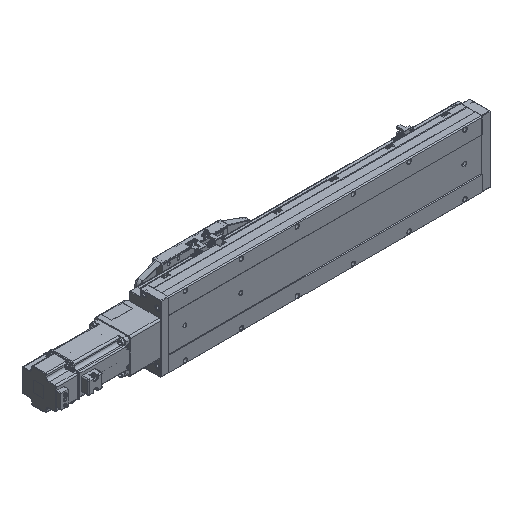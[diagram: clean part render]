
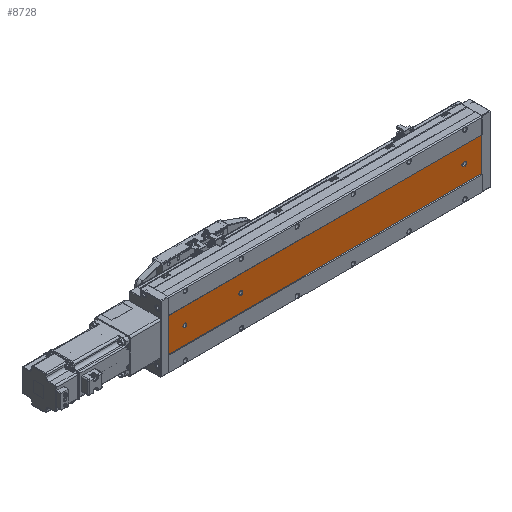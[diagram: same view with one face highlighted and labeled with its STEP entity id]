
A CAD part, isometric view. The second image highlights one B-rep face of the part: STEP entity #8728.
In plain terms, the highlighted planar face has unit normal (0, -1, 0).
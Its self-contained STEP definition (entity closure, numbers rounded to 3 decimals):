
#1011 = VERTEX_POINT ( 'NONE', #2492 ) ;
#2492 = CARTESIAN_POINT ( 'NONE',  ( -69.892, -52.848, 561. ) ) ;
#2560 = AXIS2_PLACEMENT_3D ( 'NONE', #43290, #78239, #70842 ) ;
#4271 = CARTESIAN_POINT ( 'NONE',  ( -39.892, -52.848, 527.5 ) ) ;
#4529 = AXIS2_PLACEMENT_3D ( 'NONE', #56610, #35869, #83811 ) ;
#4762 = VECTOR ( 'NONE', #5829, 1000. ) ;
#5124 = VECTOR ( 'NONE', #45199, 1000. ) ;
#5461 = VERTEX_POINT ( 'NONE', #9630 ) ;
#5829 = DIRECTION ( 'NONE',  ( 0., 0., -1. ) ) ;
#5981 = FACE_OUTER_BOUND ( 'NONE', #41131, .T. ) ;
#6803 = AXIS2_PLACEMENT_3D ( 'NONE', #17280, #71496, #57310 ) ;
#7629 = EDGE_CURVE ( 'NONE', #81849, #76922, #64505, .T. ) ;
#8299 = EDGE_CURVE ( 'NONE', #76922, #81849, #45245, .T. ) ;
#8358 = ORIENTED_EDGE ( 'NONE', *, *, #59164, .T. ) ;
#8728 = ADVANCED_FACE ( 'NONE', ( #23986, #66443, #72777, #5981 ), #15635, .F. ) ;
#8847 = EDGE_LOOP ( 'NONE', ( #41640, #47724 ) ) ;
#9546 = DIRECTION ( 'NONE',  ( 1., 0., 0. ) ) ;
#9630 = CARTESIAN_POINT ( 'NONE',  ( -43.392, -52.848, 30. ) ) ;
#12167 = CARTESIAN_POINT ( 'NONE',  ( -39.892, -52.848, 434.5 ) ) ;
#15635 = PLANE ( 'NONE',  #86229 ) ;
#17280 = CARTESIAN_POINT ( 'NONE',  ( -39.892, -52.848, 30. ) ) ;
#18362 = VERTEX_POINT ( 'NONE', #64252 ) ;
#18506 = EDGE_CURVE ( 'NONE', #57329, #64370, #36574, .T. ) ;
#18789 = LINE ( 'NONE', #30818, #50599 ) ;
#19573 = CARTESIAN_POINT ( 'NONE',  ( -39.892, -52.848, 431. ) ) ;
#19990 = DIRECTION ( 'NONE',  ( 0., 1., 0. ) ) ;
#20338 = CARTESIAN_POINT ( 'NONE',  ( -39.892, -52.848, 531. ) ) ;
#21269 = VERTEX_POINT ( 'NONE', #44245 ) ;
#21606 = VERTEX_POINT ( 'NONE', #83214 ) ;
#22450 = CARTESIAN_POINT ( 'NONE',  ( -9.892, -52.848, 0. ) ) ;
#22739 = CARTESIAN_POINT ( 'NONE',  ( -39.892, -52.848, 26.5 ) ) ;
#23043 = CIRCLE ( 'NONE', #2560, 3.5 ) ;
#23986 = FACE_BOUND ( 'NONE', #52672, .T. ) ;
#25107 = ORIENTED_EDGE ( 'NONE', *, *, #41865, .T. ) ;
#27554 = CARTESIAN_POINT ( 'NONE',  ( -39.892, -52.848, 534.5 ) ) ;
#29267 = EDGE_CURVE ( 'NONE', #21606, #57329, #84239, .T. ) ;
#30427 = VERTEX_POINT ( 'NONE', #22450 ) ;
#30818 = CARTESIAN_POINT ( 'NONE',  ( -69.892, -52.848, 561. ) ) ;
#31296 = CARTESIAN_POINT ( 'NONE',  ( -9.892, -52.848, 561. ) ) ;
#31817 = AXIS2_PLACEMENT_3D ( 'NONE', #48103, #19990, #68547 ) ;
#33223 = ORIENTED_EDGE ( 'NONE', *, *, #44875, .F. ) ;
#34057 = CARTESIAN_POINT ( 'NONE',  ( -36.392, -52.848, 32. ) ) ;
#34130 = LINE ( 'NONE', #31296, #51119 ) ;
#35869 = DIRECTION ( 'NONE',  ( 0., 1., 0. ) ) ;
#36071 = CIRCLE ( 'NONE', #6803, 3.5 ) ;
#36435 = CIRCLE ( 'NONE', #53230, 3.5 ) ;
#36514 = CARTESIAN_POINT ( 'NONE',  ( -69.892, -52.848, 0. ) ) ;
#36574 = LINE ( 'NONE', #41359, #4762 ) ;
#36705 = DIRECTION ( 'NONE',  ( 0., 1., 0. ) ) ;
#37002 = CARTESIAN_POINT ( 'NONE',  ( -39.892, -52.848, 30. ) ) ;
#37414 = CARTESIAN_POINT ( 'NONE',  ( -43.392, -52.848, 561. ) ) ;
#37999 = EDGE_CURVE ( 'NONE', #1011, #18362, #43266, .T. ) ;
#41067 = EDGE_CURVE ( 'NONE', #86411, #21269, #23043, .T. ) ;
#41077 = DIRECTION ( 'NONE',  ( 0., 0., 1. ) ) ;
#41103 = EDGE_CURVE ( 'NONE', #1011, #48943, #18789, .T. ) ;
#41131 = EDGE_LOOP ( 'NONE', ( #69489, #33223, #78819, #66150 ) ) ;
#41359 = CARTESIAN_POINT ( 'NONE',  ( -36.392, -52.848, 561. ) ) ;
#41640 = ORIENTED_EDGE ( 'NONE', *, *, #81943, .T. ) ;
#41865 = EDGE_CURVE ( 'NONE', #64370, #44689, #87511, .T. ) ;
#42595 = AXIS2_PLACEMENT_3D ( 'NONE', #37002, #36705, #70750 ) ;
#43266 = LINE ( 'NONE', #64528, #5124 ) ;
#43290 = CARTESIAN_POINT ( 'NONE',  ( -39.892, -52.848, 431. ) ) ;
#44245 = CARTESIAN_POINT ( 'NONE',  ( -39.892, -52.848, 427.5 ) ) ;
#44689 = VERTEX_POINT ( 'NONE', #22739 ) ;
#44875 = EDGE_CURVE ( 'NONE', #48943, #30427, #34130, .T. ) ;
#45199 = DIRECTION ( 'NONE',  ( 0., 0., -1. ) ) ;
#45245 = CIRCLE ( 'NONE', #4529, 3.5 ) ;
#47724 = ORIENTED_EDGE ( 'NONE', *, *, #41067, .T. ) ;
#48103 = CARTESIAN_POINT ( 'NONE',  ( -39.892, -52.848, 32. ) ) ;
#48943 = VERTEX_POINT ( 'NONE', #69354 ) ;
#49710 = CARTESIAN_POINT ( 'NONE',  ( -69.892, -52.848, 561. ) ) ;
#49859 = DIRECTION ( 'NONE',  ( 0., 0., 1. ) ) ;
#50127 = CARTESIAN_POINT ( 'NONE',  ( -36.392, -52.848, 30. ) ) ;
#50599 = VECTOR ( 'NONE', #71119, 1000. ) ;
#50996 = ORIENTED_EDGE ( 'NONE', *, *, #18506, .T. ) ;
#51119 = VECTOR ( 'NONE', #59477, 1000. ) ;
#52672 = EDGE_LOOP ( 'NONE', ( #52904, #58149, #50996, #25107, #8358 ) ) ;
#52877 = ORIENTED_EDGE ( 'NONE', *, *, #8299, .T. ) ;
#52904 = ORIENTED_EDGE ( 'NONE', *, *, #60800, .T. ) ;
#53230 = AXIS2_PLACEMENT_3D ( 'NONE', #19573, #80605, #67007 ) ;
#56610 = CARTESIAN_POINT ( 'NONE',  ( -39.892, -52.848, 531. ) ) ;
#57310 = DIRECTION ( 'NONE',  ( 0., 0., 1. ) ) ;
#57329 = VERTEX_POINT ( 'NONE', #34057 ) ;
#58149 = ORIENTED_EDGE ( 'NONE', *, *, #29267, .T. ) ;
#58393 = AXIS2_PLACEMENT_3D ( 'NONE', #20338, #73711, #41077 ) ;
#59164 = EDGE_CURVE ( 'NONE', #44689, #5461, #36071, .T. ) ;
#59477 = DIRECTION ( 'NONE',  ( 0., 0., -1. ) ) ;
#60800 = EDGE_CURVE ( 'NONE', #5461, #21606, #78198, .T. ) ;
#64252 = CARTESIAN_POINT ( 'NONE',  ( -69.892, -52.848, 0. ) ) ;
#64370 = VERTEX_POINT ( 'NONE', #50127 ) ;
#64505 = CIRCLE ( 'NONE', #58393, 3.5 ) ;
#64528 = CARTESIAN_POINT ( 'NONE',  ( -69.892, -52.848, 561. ) ) ;
#66150 = ORIENTED_EDGE ( 'NONE', *, *, #37999, .T. ) ;
#66443 = FACE_BOUND ( 'NONE', #8847, .T. ) ;
#67007 = DIRECTION ( 'NONE',  ( 0., 0., 1. ) ) ;
#68547 = DIRECTION ( 'NONE',  ( 0., 0., 1. ) ) ;
#69108 = EDGE_LOOP ( 'NONE', ( #52877, #74516 ) ) ;
#69354 = CARTESIAN_POINT ( 'NONE',  ( -9.892, -52.848, 561. ) ) ;
#69489 = ORIENTED_EDGE ( 'NONE', *, *, #73408, .T. ) ;
#70152 = DIRECTION ( 'NONE',  ( 0., 1., 0. ) ) ;
#70750 = DIRECTION ( 'NONE',  ( 0., 0., 1. ) ) ;
#70842 = DIRECTION ( 'NONE',  ( 0., 0., 1. ) ) ;
#71119 = DIRECTION ( 'NONE',  ( 1., 0., 0. ) ) ;
#71496 = DIRECTION ( 'NONE',  ( 0., 1., 0. ) ) ;
#72777 = FACE_BOUND ( 'NONE', #69108, .T. ) ;
#72816 = LINE ( 'NONE', #36514, #86563 ) ;
#73408 = EDGE_CURVE ( 'NONE', #18362, #30427, #72816, .T. ) ;
#73711 = DIRECTION ( 'NONE',  ( 0., 1., 0. ) ) ;
#74516 = ORIENTED_EDGE ( 'NONE', *, *, #7629, .T. ) ;
#76064 = VECTOR ( 'NONE', #49859, 1000. ) ;
#76922 = VERTEX_POINT ( 'NONE', #4271 ) ;
#77543 = DIRECTION ( 'NONE',  ( 0., 0., 1. ) ) ;
#78198 = LINE ( 'NONE', #37414, #76064 ) ;
#78239 = DIRECTION ( 'NONE',  ( 0., 1., 0. ) ) ;
#78819 = ORIENTED_EDGE ( 'NONE', *, *, #41103, .F. ) ;
#80605 = DIRECTION ( 'NONE',  ( 0., 1., 0. ) ) ;
#81849 = VERTEX_POINT ( 'NONE', #27554 ) ;
#81943 = EDGE_CURVE ( 'NONE', #21269, #86411, #36435, .T. ) ;
#83214 = CARTESIAN_POINT ( 'NONE',  ( -43.392, -52.848, 32. ) ) ;
#83811 = DIRECTION ( 'NONE',  ( 0., 0., 1. ) ) ;
#84239 = CIRCLE ( 'NONE', #31817, 3.5 ) ;
#86229 = AXIS2_PLACEMENT_3D ( 'NONE', #49710, #70152, #77543 ) ;
#86411 = VERTEX_POINT ( 'NONE', #12167 ) ;
#86563 = VECTOR ( 'NONE', #9546, 1000. ) ;
#87511 = CIRCLE ( 'NONE', #42595, 3.5 ) ;
